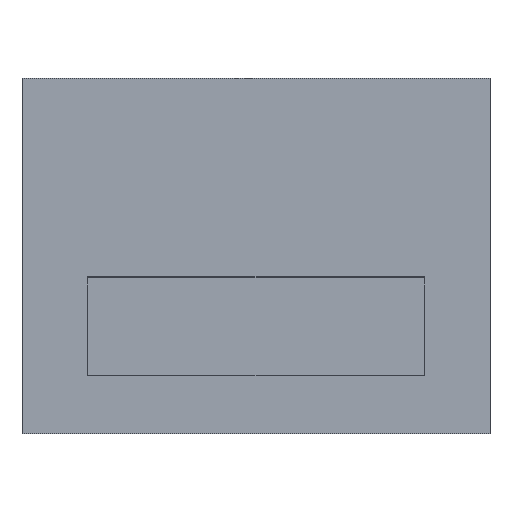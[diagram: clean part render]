
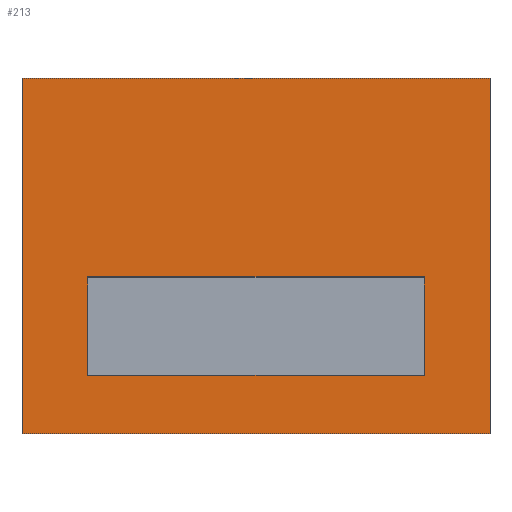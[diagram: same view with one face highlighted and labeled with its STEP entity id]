
A CAD part, top view. The second image highlights one B-rep face of the part: STEP entity #213.
In plain terms, the highlighted planar face has unit normal (0, 0, 1).
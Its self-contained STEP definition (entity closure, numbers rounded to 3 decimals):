
#24 = VERTEX_POINT('',#25);
#25 = CARTESIAN_POINT('',(-2.5,-1.9,1.));
#32 = PLANE('',#33);
#33 = AXIS2_PLACEMENT_3D('',#34,#35,#36);
#34 = CARTESIAN_POINT('',(-2.5,-1.9,0.));
#35 = DIRECTION('',(1.,0.,0.));
#36 = DIRECTION('',(0.,0.,1.));
#44 = PLANE('',#45);
#45 = AXIS2_PLACEMENT_3D('',#46,#47,#48);
#46 = CARTESIAN_POINT('',(-2.5,-1.9,0.));
#47 = DIRECTION('',(0.,1.,0.));
#48 = DIRECTION('',(0.,0.,1.));
#85 = VERTEX_POINT('',#86);
#86 = CARTESIAN_POINT('',(-2.5,1.9,1.));
#100 = PLANE('',#101);
#101 = AXIS2_PLACEMENT_3D('',#102,#103,#104);
#102 = CARTESIAN_POINT('',(-2.5,1.9,0.));
#103 = DIRECTION('',(0.,1.,0.));
#104 = DIRECTION('',(0.,0.,1.));
#112 = EDGE_CURVE('',#24,#85,#113,.T.);
#113 = SURFACE_CURVE('',#114,(#118,#125),.PCURVE_S1.);
#114 = LINE('',#115,#116);
#115 = CARTESIAN_POINT('',(-2.5,-1.9,1.));
#116 = VECTOR('',#117,1.);
#117 = DIRECTION('',(0.,1.,0.));
#118 = PCURVE('',#32,#119);
#119 = DEFINITIONAL_REPRESENTATION('',(#120),#124);
#120 = LINE('',#121,#122);
#121 = CARTESIAN_POINT('',(1.,0.));
#122 = VECTOR('',#123,1.);
#123 = DIRECTION('',(0.,-1.));
#124 = ( GEOMETRIC_REPRESENTATION_CONTEXT(2) 
PARAMETRIC_REPRESENTATION_CONTEXT() REPRESENTATION_CONTEXT('2D SPACE',''
  ) );
#125 = PCURVE('',#126,#131);
#126 = PLANE('',#127);
#127 = AXIS2_PLACEMENT_3D('',#128,#129,#130);
#128 = CARTESIAN_POINT('',(-2.5,-1.9,1.));
#129 = DIRECTION('',(0.,0.,1.));
#130 = DIRECTION('',(1.,0.,0.));
#131 = DEFINITIONAL_REPRESENTATION('',(#132),#136);
#132 = LINE('',#133,#134);
#133 = CARTESIAN_POINT('',(0.,0.));
#134 = VECTOR('',#135,1.);
#135 = DIRECTION('',(0.,1.));
#136 = ( GEOMETRIC_REPRESENTATION_CONTEXT(2) 
PARAMETRIC_REPRESENTATION_CONTEXT() REPRESENTATION_CONTEXT('2D SPACE',''
  ) );
#165 = EDGE_CURVE('',#24,#166,#168,.T.);
#166 = VERTEX_POINT('',#167);
#167 = CARTESIAN_POINT('',(2.5,-1.9,1.));
#168 = SURFACE_CURVE('',#169,(#173,#180),.PCURVE_S1.);
#169 = LINE('',#170,#171);
#170 = CARTESIAN_POINT('',(-2.5,-1.9,1.));
#171 = VECTOR('',#172,1.);
#172 = DIRECTION('',(1.,0.,0.));
#173 = PCURVE('',#44,#174);
#174 = DEFINITIONAL_REPRESENTATION('',(#175),#179);
#175 = LINE('',#176,#177);
#176 = CARTESIAN_POINT('',(1.,0.));
#177 = VECTOR('',#178,1.);
#178 = DIRECTION('',(0.,1.));
#179 = ( GEOMETRIC_REPRESENTATION_CONTEXT(2) 
PARAMETRIC_REPRESENTATION_CONTEXT() REPRESENTATION_CONTEXT('2D SPACE',''
  ) );
#180 = PCURVE('',#126,#181);
#181 = DEFINITIONAL_REPRESENTATION('',(#182),#186);
#182 = LINE('',#183,#184);
#183 = CARTESIAN_POINT('',(0.,0.));
#184 = VECTOR('',#185,1.);
#185 = DIRECTION('',(1.,0.));
#186 = ( GEOMETRIC_REPRESENTATION_CONTEXT(2) 
PARAMETRIC_REPRESENTATION_CONTEXT() REPRESENTATION_CONTEXT('2D SPACE',''
  ) );
#202 = PLANE('',#203);
#203 = AXIS2_PLACEMENT_3D('',#204,#205,#206);
#204 = CARTESIAN_POINT('',(2.5,-1.9,0.));
#205 = DIRECTION('',(1.,0.,0.));
#206 = DIRECTION('',(0.,0.,1.));
#213 = ADVANCED_FACE('',(#214,#262),#126,.T.);
#214 = FACE_BOUND('',#215,.T.);
#215 = EDGE_LOOP('',(#216,#217,#218,#241));
#216 = ORIENTED_EDGE('',*,*,#112,.F.);
#217 = ORIENTED_EDGE('',*,*,#165,.T.);
#218 = ORIENTED_EDGE('',*,*,#219,.T.);
#219 = EDGE_CURVE('',#166,#220,#222,.T.);
#220 = VERTEX_POINT('',#221);
#221 = CARTESIAN_POINT('',(2.5,1.9,1.));
#222 = SURFACE_CURVE('',#223,(#227,#234),.PCURVE_S1.);
#223 = LINE('',#224,#225);
#224 = CARTESIAN_POINT('',(2.5,-1.9,1.));
#225 = VECTOR('',#226,1.);
#226 = DIRECTION('',(0.,1.,0.));
#227 = PCURVE('',#126,#228);
#228 = DEFINITIONAL_REPRESENTATION('',(#229),#233);
#229 = LINE('',#230,#231);
#230 = CARTESIAN_POINT('',(5.,0.));
#231 = VECTOR('',#232,1.);
#232 = DIRECTION('',(0.,1.));
#233 = ( GEOMETRIC_REPRESENTATION_CONTEXT(2) 
PARAMETRIC_REPRESENTATION_CONTEXT() REPRESENTATION_CONTEXT('2D SPACE',''
  ) );
#234 = PCURVE('',#202,#235);
#235 = DEFINITIONAL_REPRESENTATION('',(#236),#240);
#236 = LINE('',#237,#238);
#237 = CARTESIAN_POINT('',(1.,0.));
#238 = VECTOR('',#239,1.);
#239 = DIRECTION('',(0.,-1.));
#240 = ( GEOMETRIC_REPRESENTATION_CONTEXT(2) 
PARAMETRIC_REPRESENTATION_CONTEXT() REPRESENTATION_CONTEXT('2D SPACE',''
  ) );
#241 = ORIENTED_EDGE('',*,*,#242,.F.);
#242 = EDGE_CURVE('',#85,#220,#243,.T.);
#243 = SURFACE_CURVE('',#244,(#248,#255),.PCURVE_S1.);
#244 = LINE('',#245,#246);
#245 = CARTESIAN_POINT('',(-2.5,1.9,1.));
#246 = VECTOR('',#247,1.);
#247 = DIRECTION('',(1.,0.,0.));
#248 = PCURVE('',#126,#249);
#249 = DEFINITIONAL_REPRESENTATION('',(#250),#254);
#250 = LINE('',#251,#252);
#251 = CARTESIAN_POINT('',(0.,3.8));
#252 = VECTOR('',#253,1.);
#253 = DIRECTION('',(1.,0.));
#254 = ( GEOMETRIC_REPRESENTATION_CONTEXT(2) 
PARAMETRIC_REPRESENTATION_CONTEXT() REPRESENTATION_CONTEXT('2D SPACE',''
  ) );
#255 = PCURVE('',#100,#256);
#256 = DEFINITIONAL_REPRESENTATION('',(#257),#261);
#257 = LINE('',#258,#259);
#258 = CARTESIAN_POINT('',(1.,0.));
#259 = VECTOR('',#260,1.);
#260 = DIRECTION('',(0.,1.));
#261 = ( GEOMETRIC_REPRESENTATION_CONTEXT(2) 
PARAMETRIC_REPRESENTATION_CONTEXT() REPRESENTATION_CONTEXT('2D SPACE',''
  ) );
#262 = FACE_BOUND('',#263,.T.);
#263 = EDGE_LOOP('',(#264,#293,#320,#347));
#264 = ORIENTED_EDGE('',*,*,#265,.T.);
#265 = EDGE_CURVE('',#266,#268,#270,.T.);
#266 = VERTEX_POINT('',#267);
#267 = CARTESIAN_POINT('',(1.8,-1.275,1.));
#268 = VERTEX_POINT('',#269);
#269 = CARTESIAN_POINT('',(-1.8,-1.275,1.));
#270 = SURFACE_CURVE('',#271,(#275,#282),.PCURVE_S1.);
#271 = LINE('',#272,#273);
#272 = CARTESIAN_POINT('',(-2.15,-1.275,1.));
#273 = VECTOR('',#274,1.);
#274 = DIRECTION('',(-1.,0.,0.));
#275 = PCURVE('',#126,#276);
#276 = DEFINITIONAL_REPRESENTATION('',(#277),#281);
#277 = LINE('',#278,#279);
#278 = CARTESIAN_POINT('',(0.35,0.625));
#279 = VECTOR('',#280,1.);
#280 = DIRECTION('',(-1.,0.));
#281 = ( GEOMETRIC_REPRESENTATION_CONTEXT(2) 
PARAMETRIC_REPRESENTATION_CONTEXT() REPRESENTATION_CONTEXT('2D SPACE',''
  ) );
#282 = PCURVE('',#283,#288);
#283 = PLANE('',#284);
#284 = AXIS2_PLACEMENT_3D('',#285,#286,#287);
#285 = CARTESIAN_POINT('',(-1.8,-1.275,0.575));
#286 = DIRECTION('',(0.,1.,0.));
#287 = DIRECTION('',(0.,0.,1.));
#288 = DEFINITIONAL_REPRESENTATION('',(#289),#292);
#289 = B_SPLINE_CURVE_WITH_KNOTS('',1,(#290,#291),.UNSPECIFIED.,.F.,.F.,
  (2,2),(-3.95,-0.35),.PIECEWISE_BEZIER_KNOTS.);
#290 = CARTESIAN_POINT('',(0.425,3.6));
#291 = CARTESIAN_POINT('',(0.425,0.));
#292 = ( GEOMETRIC_REPRESENTATION_CONTEXT(2) 
PARAMETRIC_REPRESENTATION_CONTEXT() REPRESENTATION_CONTEXT('2D SPACE',''
  ) );
#293 = ORIENTED_EDGE('',*,*,#294,.T.);
#294 = EDGE_CURVE('',#268,#295,#297,.T.);
#295 = VERTEX_POINT('',#296);
#296 = CARTESIAN_POINT('',(-1.8,-0.225,1.));
#297 = SURFACE_CURVE('',#298,(#302,#309),.PCURVE_S1.);
#298 = LINE('',#299,#300);
#299 = CARTESIAN_POINT('',(-1.8,-1.588,1.));
#300 = VECTOR('',#301,1.);
#301 = DIRECTION('',(0.,1.,0.));
#302 = PCURVE('',#126,#303);
#303 = DEFINITIONAL_REPRESENTATION('',(#304),#308);
#304 = LINE('',#305,#306);
#305 = CARTESIAN_POINT('',(0.7,0.313));
#306 = VECTOR('',#307,1.);
#307 = DIRECTION('',(0.,1.));
#308 = ( GEOMETRIC_REPRESENTATION_CONTEXT(2) 
PARAMETRIC_REPRESENTATION_CONTEXT() REPRESENTATION_CONTEXT('2D SPACE',''
  ) );
#309 = PCURVE('',#310,#315);
#310 = PLANE('',#311);
#311 = AXIS2_PLACEMENT_3D('',#312,#313,#314);
#312 = CARTESIAN_POINT('',(-1.8,-1.275,0.575));
#313 = DIRECTION('',(1.,0.,0.));
#314 = DIRECTION('',(0.,0.,1.));
#315 = DEFINITIONAL_REPRESENTATION('',(#316),#319);
#316 = B_SPLINE_CURVE_WITH_KNOTS('',1,(#317,#318),.UNSPECIFIED.,.F.,.F.,
  (2,2),(0.313,1.363),.PIECEWISE_BEZIER_KNOTS.);
#317 = CARTESIAN_POINT('',(0.425,0.));
#318 = CARTESIAN_POINT('',(0.425,-1.05));
#319 = ( GEOMETRIC_REPRESENTATION_CONTEXT(2) 
PARAMETRIC_REPRESENTATION_CONTEXT() REPRESENTATION_CONTEXT('2D SPACE',''
  ) );
#320 = ORIENTED_EDGE('',*,*,#321,.F.);
#321 = EDGE_CURVE('',#322,#295,#324,.T.);
#322 = VERTEX_POINT('',#323);
#323 = CARTESIAN_POINT('',(1.8,-0.225,1.));
#324 = SURFACE_CURVE('',#325,(#329,#336),.PCURVE_S1.);
#325 = LINE('',#326,#327);
#326 = CARTESIAN_POINT('',(-2.15,-0.225,1.));
#327 = VECTOR('',#328,1.);
#328 = DIRECTION('',(-1.,0.,0.));
#329 = PCURVE('',#126,#330);
#330 = DEFINITIONAL_REPRESENTATION('',(#331),#335);
#331 = LINE('',#332,#333);
#332 = CARTESIAN_POINT('',(0.35,1.675));
#333 = VECTOR('',#334,1.);
#334 = DIRECTION('',(-1.,0.));
#335 = ( GEOMETRIC_REPRESENTATION_CONTEXT(2) 
PARAMETRIC_REPRESENTATION_CONTEXT() REPRESENTATION_CONTEXT('2D SPACE',''
  ) );
#336 = PCURVE('',#337,#342);
#337 = PLANE('',#338);
#338 = AXIS2_PLACEMENT_3D('',#339,#340,#341);
#339 = CARTESIAN_POINT('',(-1.8,-0.225,0.575));
#340 = DIRECTION('',(0.,1.,0.));
#341 = DIRECTION('',(0.,0.,1.));
#342 = DEFINITIONAL_REPRESENTATION('',(#343),#346);
#343 = B_SPLINE_CURVE_WITH_KNOTS('',1,(#344,#345),.UNSPECIFIED.,.F.,.F.,
  (2,2),(-3.95,-0.35),.PIECEWISE_BEZIER_KNOTS.);
#344 = CARTESIAN_POINT('',(0.425,3.6));
#345 = CARTESIAN_POINT('',(0.425,0.));
#346 = ( GEOMETRIC_REPRESENTATION_CONTEXT(2) 
PARAMETRIC_REPRESENTATION_CONTEXT() REPRESENTATION_CONTEXT('2D SPACE',''
  ) );
#347 = ORIENTED_EDGE('',*,*,#348,.F.);
#348 = EDGE_CURVE('',#266,#322,#349,.T.);
#349 = SURFACE_CURVE('',#350,(#354,#361),.PCURVE_S1.);
#350 = LINE('',#351,#352);
#351 = CARTESIAN_POINT('',(1.8,-1.588,1.));
#352 = VECTOR('',#353,1.);
#353 = DIRECTION('',(0.,1.,0.));
#354 = PCURVE('',#126,#355);
#355 = DEFINITIONAL_REPRESENTATION('',(#356),#360);
#356 = LINE('',#357,#358);
#357 = CARTESIAN_POINT('',(4.3,0.313));
#358 = VECTOR('',#359,1.);
#359 = DIRECTION('',(0.,1.));
#360 = ( GEOMETRIC_REPRESENTATION_CONTEXT(2) 
PARAMETRIC_REPRESENTATION_CONTEXT() REPRESENTATION_CONTEXT('2D SPACE',''
  ) );
#361 = PCURVE('',#362,#367);
#362 = PLANE('',#363);
#363 = AXIS2_PLACEMENT_3D('',#364,#365,#366);
#364 = CARTESIAN_POINT('',(1.8,-1.275,0.575));
#365 = DIRECTION('',(1.,0.,0.));
#366 = DIRECTION('',(0.,0.,1.));
#367 = DEFINITIONAL_REPRESENTATION('',(#368),#371);
#368 = B_SPLINE_CURVE_WITH_KNOTS('',1,(#369,#370),.UNSPECIFIED.,.F.,.F.,
  (2,2),(0.313,1.363),.PIECEWISE_BEZIER_KNOTS.);
#369 = CARTESIAN_POINT('',(0.425,0.));
#370 = CARTESIAN_POINT('',(0.425,-1.05));
#371 = ( GEOMETRIC_REPRESENTATION_CONTEXT(2) 
PARAMETRIC_REPRESENTATION_CONTEXT() REPRESENTATION_CONTEXT('2D SPACE',''
  ) );
